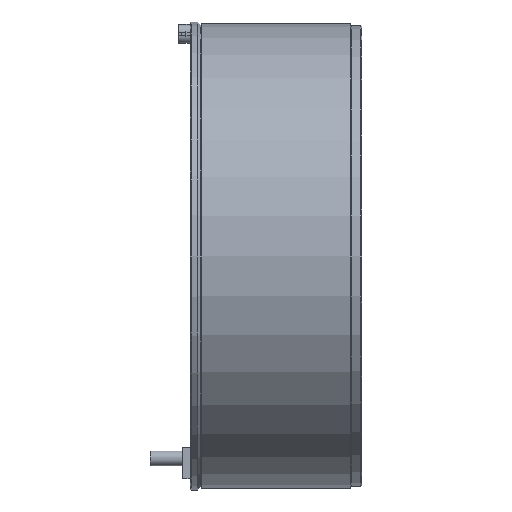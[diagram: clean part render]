
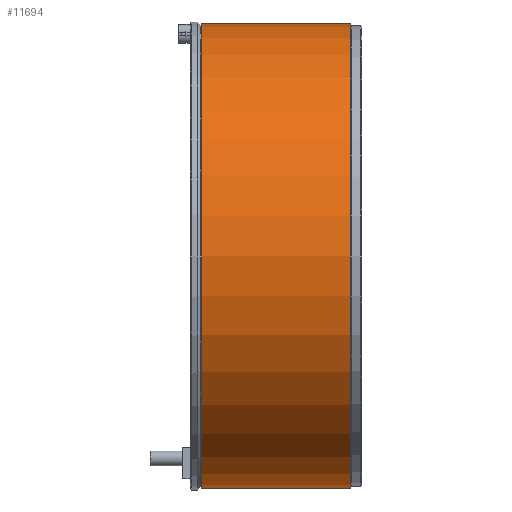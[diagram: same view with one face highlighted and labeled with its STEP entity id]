
A CAD part, left-side view. The second image highlights one B-rep face of the part: STEP entity #11694.
In plain terms, the highlighted cylindrical face has radius 284 mm (diameter 568 mm), a partial arc.
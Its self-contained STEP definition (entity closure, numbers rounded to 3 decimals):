
#696 = CYLINDRICAL_SURFACE ( 'NONE', #11059, 284. ) ;
#1070 = CIRCLE ( 'NONE', #12067, 284. ) ;
#1306 = VERTEX_POINT ( 'NONE', #1541 ) ;
#1541 = CARTESIAN_POINT ( 'NONE',  ( 0., 13.5, -284. ) ) ;
#2130 = VERTEX_POINT ( 'NONE', #4274 ) ;
#2572 = VECTOR ( 'NONE', #12561, 1000. ) ;
#2746 = DIRECTION ( 'NONE',  ( 0., -1., 0. ) ) ;
#2790 = CIRCLE ( 'NONE', #6817, 284. ) ;
#2794 = ORIENTED_EDGE ( 'NONE', *, *, #10724, .F. ) ;
#4041 = CARTESIAN_POINT ( 'NONE',  ( 0., 0., -284. ) ) ;
#4086 = EDGE_LOOP ( 'NONE', ( #2794, #9692, #8922, #4381 ) ) ;
#4274 = CARTESIAN_POINT ( 'NONE',  ( 0., 196., 284. ) ) ;
#4364 = VERTEX_POINT ( 'NONE', #7874 ) ;
#4381 = ORIENTED_EDGE ( 'NONE', *, *, #7410, .F. ) ;
#5427 = CARTESIAN_POINT ( 'NONE',  ( 0., 13.5, 0. ) ) ;
#6466 = VERTEX_POINT ( 'NONE', #11091 ) ;
#6817 = AXIS2_PLACEMENT_3D ( 'NONE', #9700, #2746, #9655 ) ;
#7410 = EDGE_CURVE ( 'NONE', #4364, #1306, #1070, .T. ) ;
#7494 = LINE ( 'NONE', #4041, #12518 ) ;
#7874 = CARTESIAN_POINT ( 'NONE',  ( 0., 13.5, 284. ) ) ;
#8536 = CARTESIAN_POINT ( 'NONE',  ( 0., 0., 0. ) ) ;
#8901 = DIRECTION ( 'NONE',  ( 0., 0., -1. ) ) ;
#8922 = ORIENTED_EDGE ( 'NONE', *, *, #9511, .T. ) ;
#9150 = CARTESIAN_POINT ( 'NONE',  ( 0., 0., 284. ) ) ;
#9511 = EDGE_CURVE ( 'NONE', #6466, #1306, #7494, .T. ) ;
#9655 = DIRECTION ( 'NONE',  ( 0., 0., -1. ) ) ;
#9692 = ORIENTED_EDGE ( 'NONE', *, *, #14744, .T. ) ;
#9696 = DIRECTION ( 'NONE',  ( 0., -1., 0. ) ) ;
#9700 = CARTESIAN_POINT ( 'NONE',  ( 0., 196., 0. ) ) ;
#9877 = DIRECTION ( 'NONE',  ( 0., -1., 0. ) ) ;
#10724 = EDGE_CURVE ( 'NONE', #2130, #4364, #11800, .T. ) ;
#10841 = DIRECTION ( 'NONE',  ( 0., 0., -1. ) ) ;
#11059 = AXIS2_PLACEMENT_3D ( 'NONE', #8536, #9696, #10841 ) ;
#11091 = CARTESIAN_POINT ( 'NONE',  ( 0., 196., -284. ) ) ;
#11186 = FACE_OUTER_BOUND ( 'NONE', #4086, .T. ) ;
#11694 = ADVANCED_FACE ( 'NONE', ( #11186 ), #696, .T. ) ;
#11800 = LINE ( 'NONE', #9150, #2572 ) ;
#12067 = AXIS2_PLACEMENT_3D ( 'NONE', #5427, #13518, #8901 ) ;
#12518 = VECTOR ( 'NONE', #9877, 1000. ) ;
#12561 = DIRECTION ( 'NONE',  ( 0., -1., 0. ) ) ;
#13518 = DIRECTION ( 'NONE',  ( 0., -1., 0. ) ) ;
#14744 = EDGE_CURVE ( 'NONE', #2130, #6466, #2790, .T. ) ;
